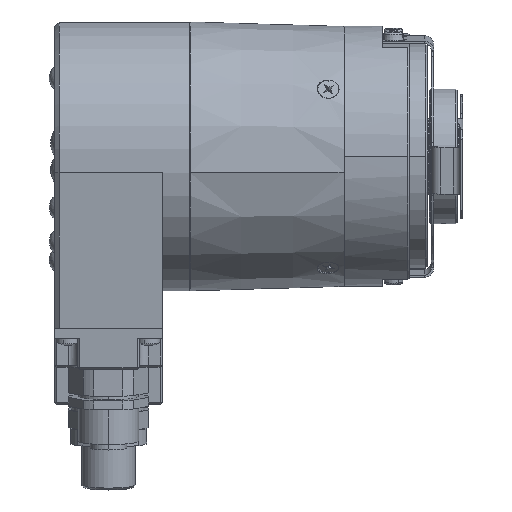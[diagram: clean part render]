
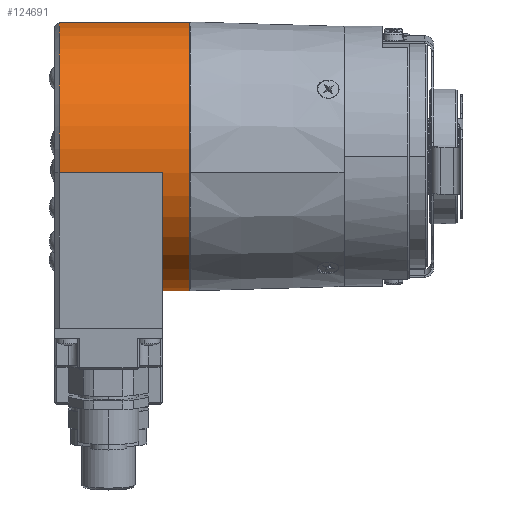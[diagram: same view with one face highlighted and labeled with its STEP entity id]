
A CAD part, top view. The second image highlights one B-rep face of the part: STEP entity #124691.
In plain terms, the highlighted cylindrical face has radius 30 mm (diameter 60 mm), a partial arc.
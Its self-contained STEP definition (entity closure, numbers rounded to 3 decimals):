
#18259 = CARTESIAN_POINT ( 'NONE',  ( -26.295, 30.704, 3.325 ) ) ;
#18297 = CARTESIAN_POINT ( 'NONE',  ( -26.295, -28.849, -3.988 ) ) ;
#18298 = CARTESIAN_POINT ( 'NONE',  ( -32.295, -28.849, -3.988 ) ) ;
#18299 = DIRECTION ( 'NONE',  ( -1., 0., 0. ) ) ;
#18300 = VECTOR ( 'NONE', #18299, 1000. ) ;
#18301 = CARTESIAN_POINT ( 'NONE',  ( -26.295, -28.849, -3.988 ) ) ;
#18302 = LINE ( 'NONE', #18301, #18300 ) ;
#18420 = CARTESIAN_POINT ( 'NONE',  ( -55.295, 30.704, 3.325 ) ) ;
#18447 = DIRECTION ( 'NONE',  ( -1., 0., 0. ) ) ;
#18448 = VECTOR ( 'NONE', #18447, 1000. ) ;
#18449 = CARTESIAN_POINT ( 'NONE',  ( -26.295, 30.704, 3.325 ) ) ;
#18450 = LINE ( 'NONE', #18449, #18448 ) ;
#105483 = FACE_OUTER_BOUND ( 'NONE', #124693, .T. ) ;
#105503 = DIRECTION ( 'NONE',  ( 0., -0.993, -0.122 ) ) ;
#105504 = DIRECTION ( 'NONE',  ( 1., 0., 0. ) ) ;
#105505 = CARTESIAN_POINT ( 'NONE',  ( -26.295, 0.928, -0.332 ) ) ;
#105506 = AXIS2_PLACEMENT_3D ( 'NONE', #105505, #105504, #105503 ) ;
#105507 = CIRCLE ( 'NONE', #105506, 30. ) ;
#105514 = DIRECTION ( 'NONE',  ( 0., 0.993, 0.122 ) ) ;
#105515 = DIRECTION ( 'NONE',  ( -1., 0., 0. ) ) ;
#105516 = AXIS2_PLACEMENT_3D ( 'NONE', #105519, #105515, #105514 ) ;
#105517 = CYLINDRICAL_SURFACE ( 'NONE', #105516, 30. ) ;
#105519 = CARTESIAN_POINT ( 'NONE',  ( -26.295, 0.928, -0.332 ) ) ;
#105624 = DIRECTION ( 'NONE',  ( 0., 0.122, -0.993 ) ) ;
#105625 = DIRECTION ( 'NONE',  ( -1., 0., 0. ) ) ;
#105626 = CARTESIAN_POINT ( 'NONE',  ( -32.295, 0.928, -0.332 ) ) ;
#105627 = AXIS2_PLACEMENT_3D ( 'NONE', #105626, #105625, #105624 ) ;
#105628 = CIRCLE ( 'NONE', #105627, 30. ) ;
#105630 = CARTESIAN_POINT ( 'NONE',  ( -32.295, -2.728, 29.445 ) ) ;
#105631 = DIRECTION ( 'NONE',  ( -1., 0., 0. ) ) ;
#105632 = VECTOR ( 'NONE', #105631, 1000. ) ;
#105633 = CARTESIAN_POINT ( 'NONE',  ( -32.295, -2.728, 29.445 ) ) ;
#105634 = LINE ( 'NONE', #105633, #105632 ) ;
#105642 = CARTESIAN_POINT ( 'NONE',  ( -55.295, -2.728, 29.445 ) ) ;
#105644 = DIRECTION ( 'NONE',  ( 0., -0.993, -0.122 ) ) ;
#105645 = DIRECTION ( 'NONE',  ( 1., 0., 0. ) ) ;
#105646 = AXIS2_PLACEMENT_3D ( 'NONE', #105653, #105645, #105644 ) ;
#105647 = CIRCLE ( 'NONE', #105646, 30. ) ;
#105653 = CARTESIAN_POINT ( 'NONE',  ( -55.295, 0.928, -0.332 ) ) ;
#119649 = VERTEX_POINT ( 'NONE', #18259 ) ;
#119657 = EDGE_CURVE ( 'NONE', #119659, #119658, #18302, .T. ) ;
#119658 = VERTEX_POINT ( 'NONE', #18298 ) ;
#119659 = VERTEX_POINT ( 'NONE', #18297 ) ;
#119685 = VERTEX_POINT ( 'NONE', #18420 ) ;
#119692 = EDGE_CURVE ( 'NONE', #119649, #119685, #18450, .T. ) ;
#124691 = ADVANCED_FACE ( 'NONE', ( #105483 ), #105517, .T. ) ;
#124693 = EDGE_LOOP ( 'NONE', ( #124695, #124698, #124703, #124736, #124742, #124746 ) ) ;
#124695 = ORIENTED_EDGE ( 'NONE', *, *, #119657, .F. ) ;
#124698 = ORIENTED_EDGE ( 'NONE', *, *, #124700, .F. ) ;
#124700 = EDGE_CURVE ( 'NONE', #119649, #119659, #105507, .T. ) ;
#124703 = ORIENTED_EDGE ( 'NONE', *, *, #119692, .T. ) ;
#124736 = ORIENTED_EDGE ( 'NONE', *, *, #124738, .T. ) ;
#124738 = EDGE_CURVE ( 'NONE', #119685, #124740, #105647, .T. ) ;
#124740 = VERTEX_POINT ( 'NONE', #105642 ) ;
#124742 = ORIENTED_EDGE ( 'NONE', *, *, #124744, .F. ) ;
#124744 = EDGE_CURVE ( 'NONE', #124745, #124740, #105634, .T. ) ;
#124745 = VERTEX_POINT ( 'NONE', #105630 ) ;
#124746 = ORIENTED_EDGE ( 'NONE', *, *, #124748, .F. ) ;
#124748 = EDGE_CURVE ( 'NONE', #119658, #124745, #105628, .T. ) ;
